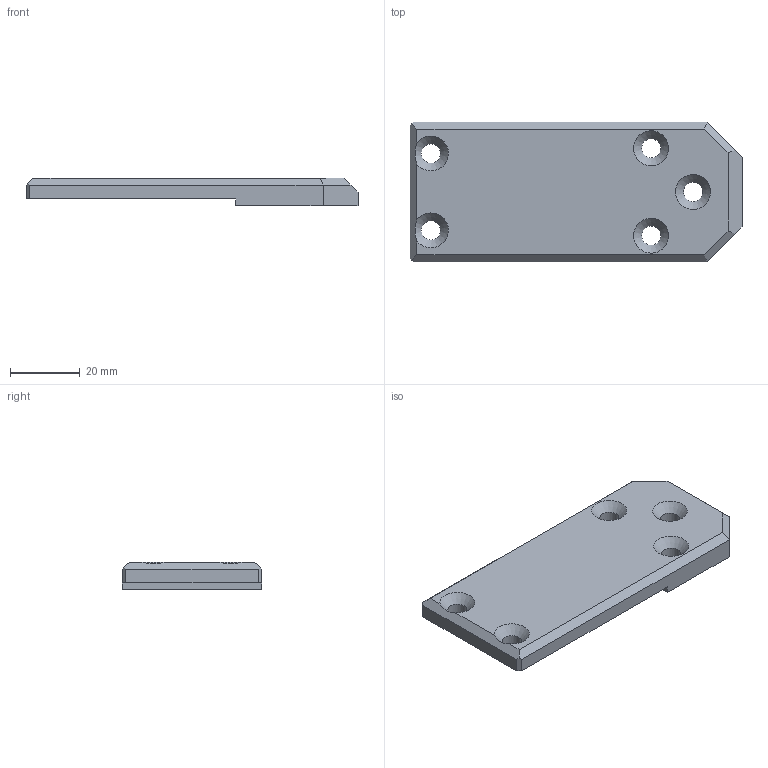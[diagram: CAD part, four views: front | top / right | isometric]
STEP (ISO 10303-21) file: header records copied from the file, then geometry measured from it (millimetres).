
FILE_DESCRIPTION( ( 'Unknown' ), '1' );
FILE_NAME( 'F:/navkite transat/construction/2016/3D ET ASSEMBLAGES/self tailing/WI 17.stp', 'Unknown', ( 'GMA' ), ( 'Unknown' ), 'XStep 1.0', 'Unknown', ' ' );
FILE_SCHEMA( ( 'automotive_design' ) );
Length unit declared in the file: millimetre
Products named in the file (1): 1
Bounding box: 95 x 40 x 8 mm (x, y, z)
Volume: 22987.9 mm3; surface area: 9183 mm2
Topology: 1 solids, 1 shells, 28 faces, 82 edges, 54 vertices
Faces by surface type: plane 18, cylinder 5, cone 5
Full cylindrical faces by diameter (mm): 5.5 x5
Entity records: 1074 total; most frequent: CARTESIAN_POINT 141, DIRECTION 140, ORIENTED_EDGE 130, EDGE_CURVE 65, LINE 48, VECTOR 48, VERTEX_POINT 47, AXIS2_PLACEMENT_3D 46
